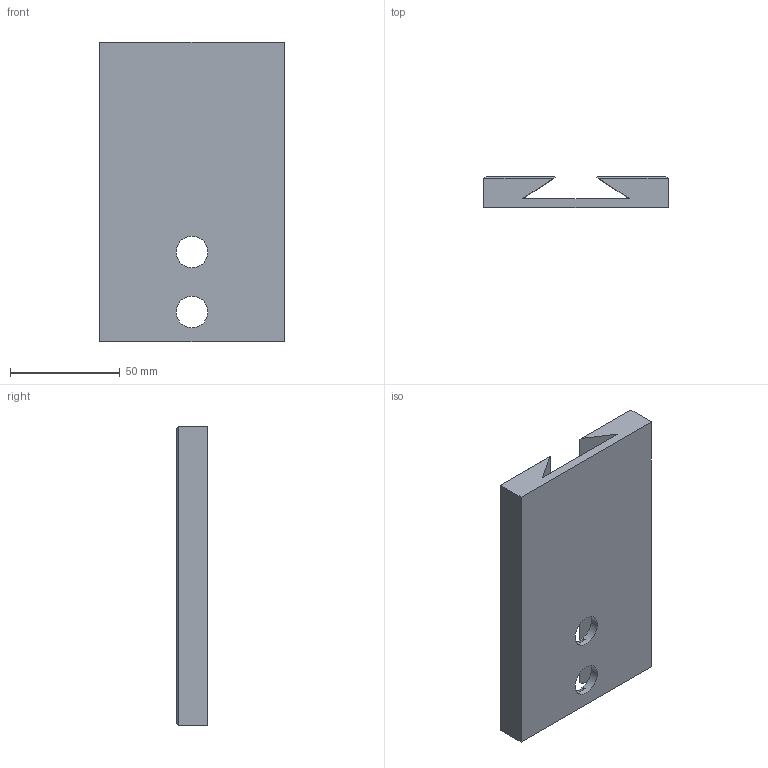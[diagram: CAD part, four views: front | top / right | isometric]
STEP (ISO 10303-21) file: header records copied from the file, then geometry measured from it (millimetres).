
FILE_DESCRIPTION(('Open CASCADE Model'),'2;1');
FILE_NAME('Open CASCADE Shape Model','2026-09-09T00:35:52',('Author'),( 'Open CASCADE'),'Open CASCADE STEP processor 7.7','Open CASCADE 7.7' ,'Unknown');
FILE_SCHEMA(('AUTOMOTIVE_DESIGN { 1 0 10303 214 1 1 1 1 }'));
Length unit declared in the file: millimetre
Products named in the file (1): Open CASCADE STEP translator 7.7 1
Bounding box: 83.97 x 14.25 x 136.52 mm (x, y, z)
Volume: 115706.1 mm3; surface area: 37193 mm2
Topology: 1 solids, 1 shells, 33 faces, 86 edges, 56 vertices
Faces by surface type: plane 31, cylinder 2
Full cylindrical faces by diameter (mm): 14.4 x2
Entity records: 2150 total; most frequent: CARTESIAN_POINT 432, DIRECTION 304, LINE 210, VECTOR 210, ORIENTED_EDGE 172, PCURVE 172, DEFINITIONAL_REPRESENTATION 172, EDGE_CURVE 86
